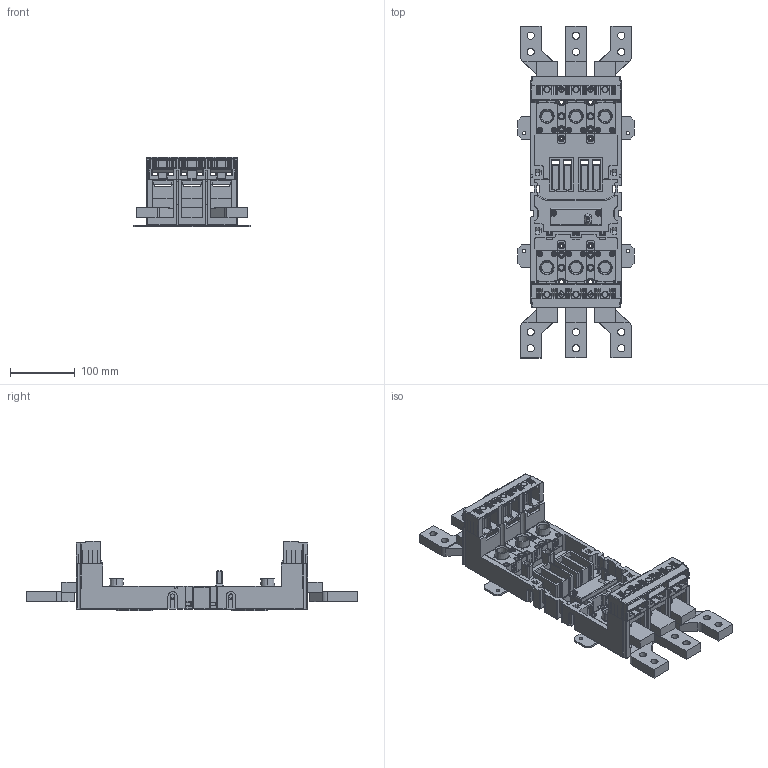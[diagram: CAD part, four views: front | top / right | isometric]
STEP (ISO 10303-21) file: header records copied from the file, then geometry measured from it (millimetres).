
FILE_DESCRIPTION (( 'STEP AP214' ), '1' );
FILE_NAME ('ZO-BH-0630-300__CS-BH-JX75__OD-BHD-MS75.step', '2011-09-07T07:31:47', ( 'Radek Veselý' ), ( 'Siemens and Partners' ), 'SwSTEP 2.0', 'SolidWorks 2006303', '' );
FILE_SCHEMA (( 'AUTOMOTIVE_DESIGN' ));
Length unit declared in the file: millimetre
Products named in the file (1): ZO-BH-0630-300__CS-BH-JX75__OD-BHD-MS75
Bounding box: 180 x 513 x 108 mm (x, y, z)
Volume: 1436758 mm3; surface area: 719485.6 mm2
Topology: 48 solids, 48 shells, 6959 faces, 18466 edges, 11582 vertices
Faces by surface type: plane 4298, cylinder 1988, sphere 190, bspline 174, cone 162, torus 147
Entity records: 294707 total; most frequent: CARTESIAN_POINT 46309, ORIENTED_EDGE 36508, DIRECTION 34876, EDGE_CURVE 18254, LINE 12926, VECTOR 12926, VERTEX_POINT 11582, AXIS2_PLACEMENT_3D 10975
